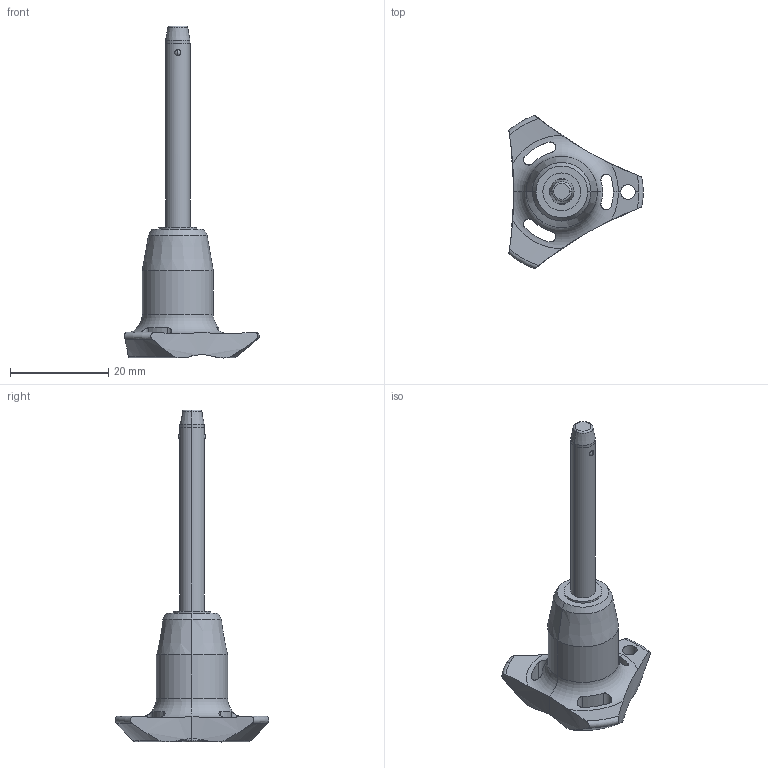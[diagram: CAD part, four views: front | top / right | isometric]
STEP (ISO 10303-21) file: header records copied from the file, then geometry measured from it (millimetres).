
FILE_DESCRIPTION (( 'STEP AP203' ), '1' );
FILE_NAME ('QR1716.M05-035-T.step', '2025-11-13T10:25:01', ( '' ), ( '' ), 'SwSTEP 2.0', 'SolidWorks 2019', '' );
FILE_SCHEMA (( 'CONFIG_CONTROL_DESIGN' ));
Length unit declared in the file: millimetre
Products named in the file (1): QR1716.M05-035-T
Bounding box: 27.4 x 31.31 x 67.7 mm (x, y, z)
Volume: 5555.1 mm3; surface area: 3058.2 mm2
Topology: 1 solids, 1 shells, 69 faces, 187 edges, 119 vertices
Faces by surface type: cylinder 32, cone 14, torus 12, sphere 6, plane 5
Entity records: 2773 total; most frequent: CARTESIAN_POINT 994, ORIENTED_EDGE 374, DIRECTION 348, EDGE_CURVE 187, AXIS2_PLACEMENT_3D 155, VERTEX_POINT 119, CIRCLE 85, EDGE_LOOP 76
